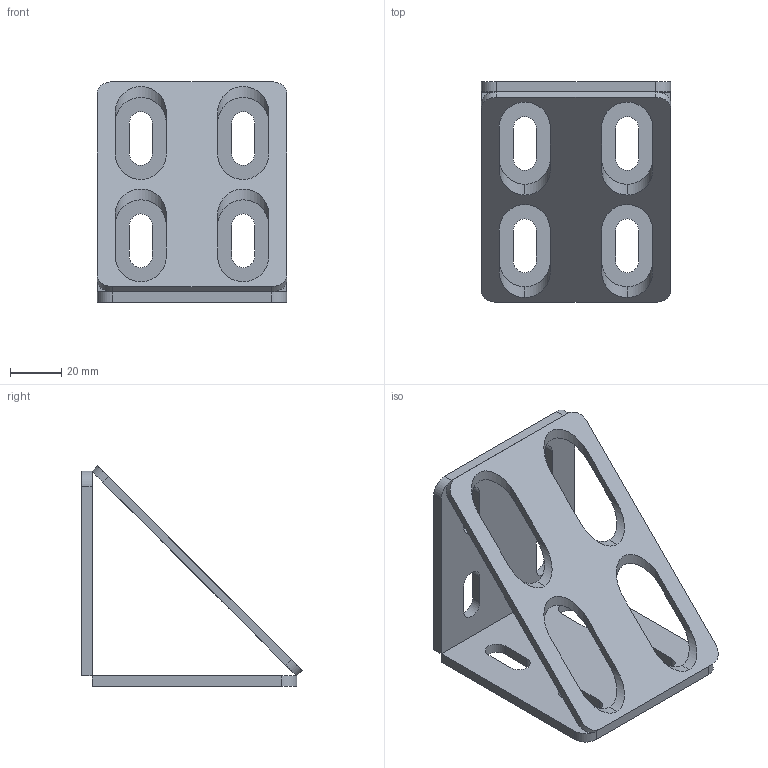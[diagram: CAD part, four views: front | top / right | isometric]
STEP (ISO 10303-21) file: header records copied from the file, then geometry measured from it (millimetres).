
FILE_DESCRIPTION (( 'STEP AP214' ), '1' );
FILE_NAME ('8205.STEP', '2017-10-07T10:56:20', ( '' ), ( '' ), 'SwSTEP 2.0', 'SolidWorks 2014', '' );
FILE_SCHEMA (( 'AUTOMOTIVE_DESIGN' ));
Length unit declared in the file: millimetre
Products named in the file (6): 8205; 8205 - 2
Assembly tree (3 placements, depth 2):
  8205
  8205
  8205
    8205  x2
    8205 - 2
  8205 - 2
Bounding box: 74 x 86.12 x 86.12 mm (x, y, z)
Volume: 56644.9 mm3; surface area: 37539.3 mm2
Topology: 3 solids, 3 shells, 78 faces, 216 edges, 144 vertices
Faces by surface type: plane 42, cylinder 36
Entity records: 1909 total; most frequent: CARTESIAN_POINT 383, ORIENTED_EDGE 300, DIRECTION 276, EDGE_CURVE 150, VERTEX_POINT 100, VECTOR 98, LINE 98, AXIS2_PLACEMENT_3D 89
